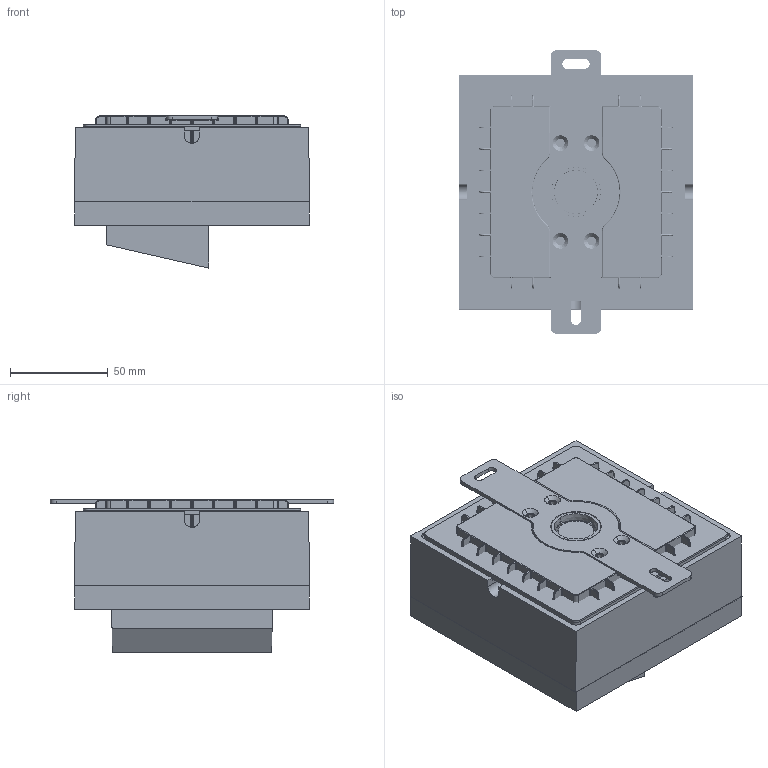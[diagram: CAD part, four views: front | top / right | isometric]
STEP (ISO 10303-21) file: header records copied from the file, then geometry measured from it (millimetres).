
FILE_DESCRIPTION((''),'2;1');
FILE_NAME('120-FBD_ASM','2021-07-26T',('Administrator'),(''),'PRO/ENGINEER BY PARAMETRIC TECHNOLOGY CORPORATION, 2010480','PRO/ENGINEER BY PARAMETRIC TECHNOLOGY CORPORATION, 2010480','');
FILE_SCHEMA(('CONFIG_CONTROL_DESIGN'));
Products named in the file (26): 1CV_; 7SQW18_FL2_15_6; 7SQW16-180-1_14; 120-YMT-DP_2; ZHUAN_JIE_BAN; M5_____; 120-YMT_ASM_10_ASM; 7CV; 7SQW18_KAHUANG_21_9; 120-FSQ_5; SCREW-M12_1_19; XINGUIJIAO_15; GUIJIAOSAI-005_9; LUOMUZUJIAN_ASM_15_ASM; M14_ASM; M4-8; M3-L6; 120-DT_ASM_11_ASM; MG3-SRB_3; DIAN_YUAN; 1CX-C; MG3-LJB_4; MG3-BL_5; 1CX_ASM; 120-FBD_ASM_89_ASM; 120-FBD_ASM
Assembly tree (35 placements, depth 6):
  120-FBD_ASM
    120-FBD_ASM_89_ASM
      120-YMT_ASM_10_ASM
        1CV_
        7SQW18_FL2_15_6
        7SQW16-180-1_14
        120-YMT-DP_2
        ZHUAN_JIE_BAN
        M5_____  x2
      120-DT_ASM_11_ASM
        7CV
        7SQW18_KAHUANG_21_9  x4
        120-FSQ_5
        M14_ASM
          LUOMUZUJIAN_ASM_15_ASM
            SCREW-M12_1_19
            XINGUIJIAO_15
            GUIJIAOSAI-005_9
        M4-8  x4
        M3-L6  x4
      1CX_ASM
        MG3-SRB_3
        DIAN_YUAN
        1CX-C
        MG3-LJB_4
        MG3-BL_5
Bounding box: 120.05 x 145 x 77.81 mm (x, y, z)
Volume: 335001.4 mm3; surface area: 341337.7 mm2
Topology: 29 solids, 29 shells, 3373 faces, 8581 edges, 5318 vertices
Faces by surface type: cylinder 1334, plane 1189, bspline 463, cone 178, torus 115, sphere 94
Entity records: 114821 total; most frequent: CARTESIAN_POINT 47768, ORIENTED_EDGE 14464, DIRECTION 13049, EDGE_CURVE 7232, AXIS2_PLACEMENT_3D 4586, VERTEX_POINT 4473, VECTOR 3877, LINE 3877
